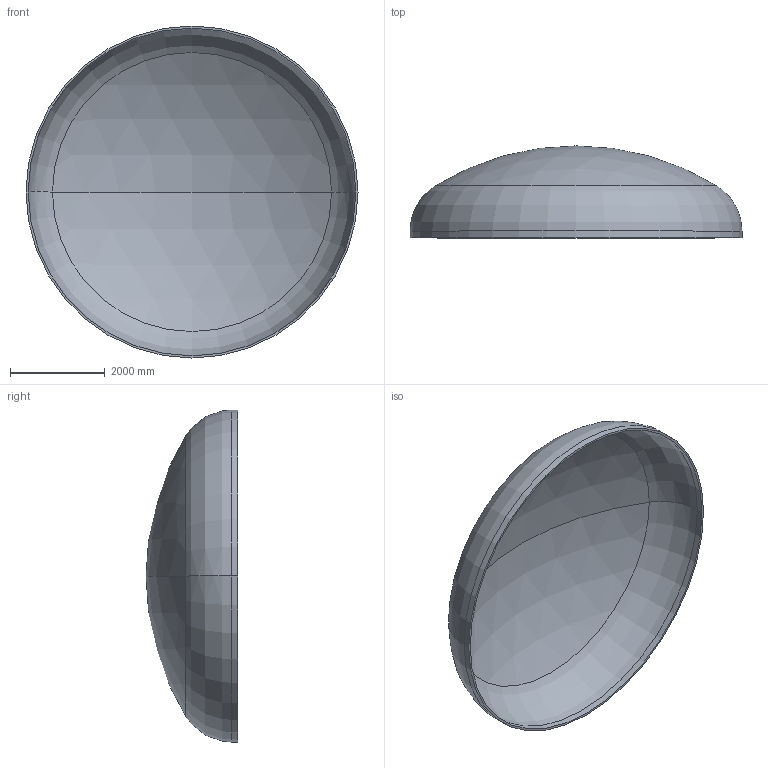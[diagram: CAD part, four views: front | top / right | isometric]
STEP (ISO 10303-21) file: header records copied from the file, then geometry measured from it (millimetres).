
FILE_DESCRIPTION (( 'STEP AP203' ), '1' );
FILE_NAME ('DIN 28013 Korbbogenform_-_Boden DIN 28013 - 7000 x 140 - I - s=45.step', '2016-07-04T10:47:37', ( '' ), ( '' ), 'SwSTEP 2.0', 'SolidWorks 2013', '' );
FILE_SCHEMA (( 'CONFIG_CONTROL_DESIGN' ));
Length unit declared in the file: millimetre
Products named in the file (1): DIN 28013 Korbbogenform_-_Boden DIN 28013 - 7000 x 140 - I - s=45
Bounding box: 7000 x 1939.25 x 7000 mm (x, y, z)
Volume: 2516779897.7 mm3; surface area: 112844322.2 mm2
Topology: 1 solids, 1 shells, 13 faces, 24 edges, 14 vertices
Faces by surface type: torus 4, cylinder 4, sphere 4, plane 1
Entity records: 407 total; most frequent: DIRECTION 72, CARTESIAN_POINT 52, ORIENTED_EDGE 48, AXIS2_PLACEMENT_3D 34, EDGE_CURVE 24, CIRCLE 20, EDGE_LOOP 14, VERTEX_POINT 14
